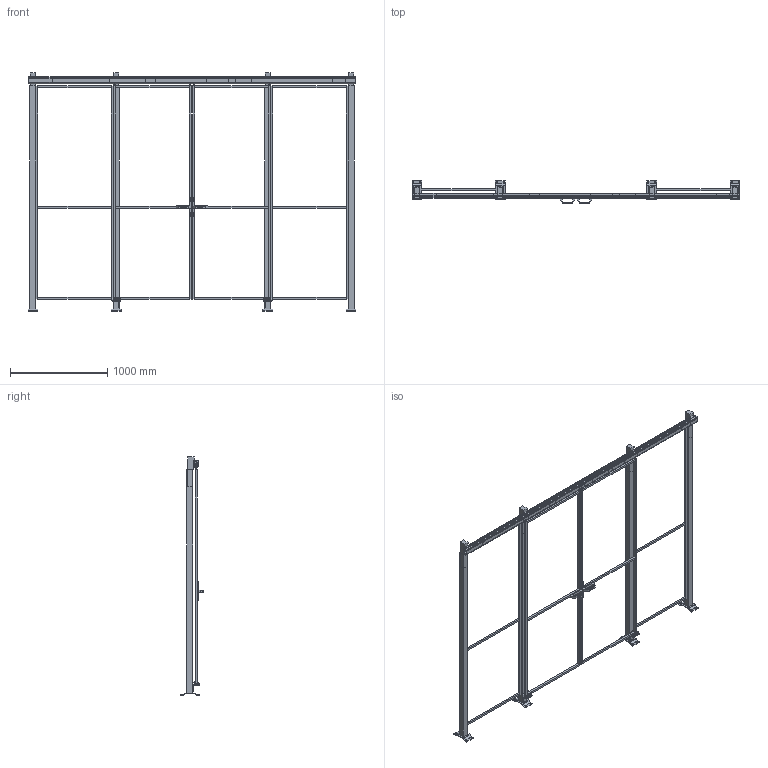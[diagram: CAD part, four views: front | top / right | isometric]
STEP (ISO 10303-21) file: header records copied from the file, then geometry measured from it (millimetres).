
FILE_DESCRIPTION(/* description */ (''),/* implementation_level */ '2;1');
FILE_NAME(/* name */ 'C:\SafeGuarding\ELABORATI\HOR§VED_2025-04-01-10-05-01.stp',/* time_stamp */ '2025-04-01T10:05:07+02:00',/* author */ ('admin'),/* organization */ (''),/* preprocessor_version */ 'ST-DEVELOPER v18.1',/* originating_system */ 'AutoCAD Mechanical',/* authorisation */ '');
FILE_SCHEMA (('AUTOMOTIVE_DESIGN { 1 0 10303 214 3 1 1 }'));
Length unit declared in the file: millimetre
Products named in the file (3): Product; R_VFPA.REPE20.08002200; P_VFMA.V260SDU.2320
Assembly tree (8 placements, depth 2):
  Product
    R_VFPA.REPE20.08002200  x4
    P_VFMA.V260SDU.2320  x4
Bounding box: 3380 x 235.91 x 2454 mm (x, y, z)
Volume: 60381952.6 mm3; surface area: 9104751.7 mm2
Topology: 58 solids, 80 shells, 694 faces, 2248 edges, 2204 vertices
Faces by surface type: plane 638, cylinder 56
Full cylindrical faces by diameter (mm): 11 x16, 12 x4, 14 x4, 15 x8, 40 x8
Entity records: 17747 total; most frequent: CARTESIAN_POINT 3685, ORIENTED_EDGE 2724, DIRECTION 2650, EDGE_CURVE 1460, LINE 1280, VECTOR 1280, VERTEX_POINT 1056, AXIS2_PLACEMENT_3D 685
